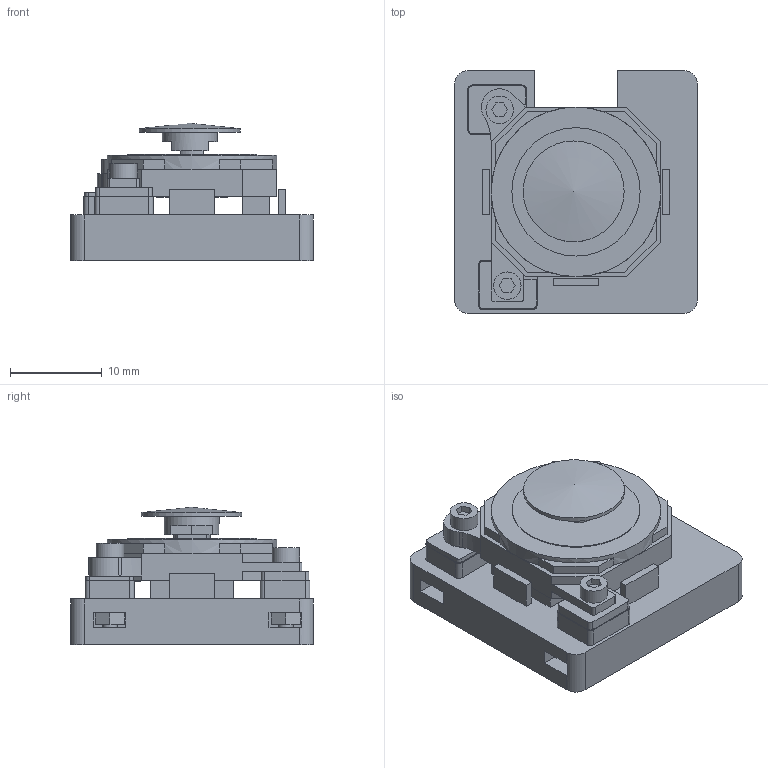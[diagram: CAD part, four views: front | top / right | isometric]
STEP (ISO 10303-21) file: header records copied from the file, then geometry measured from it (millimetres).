
FILE_DESCRIPTION(('Open CASCADE Model'),'2;1');
FILE_NAME('Open CASCADE Shape Model','2026-09-13T21:07:18',('Author'),( 'Open CASCADE'),'Open CASCADE STEP processor 7.9','Open CASCADE 7.9' ,'Unknown');
FILE_SCHEMA(('AUTOMOTIVE_DESIGN { 1 0 10303 214 1 1 1 1 }'));
Length unit declared in the file: millimetre
Products named in the file (9): COM09426_UNVERIFIED_FIT_SAMPLE; PRINT_holder; REFERENCE_community_joystick_NOT_PRINTABLE; PRINT_shim_A_0.5mm; PRINT_shim_B_1.0mm; BUY_M1_6x8_screw_A; BUY_M1_6_nut_A; BUY_M1_6x8_screw_B; BUY_M1_6_nut_B
Assembly tree (8 placements, depth 2):
  COM09426_UNVERIFIED_FIT_SAMPLE
    PRINT_holder
    REFERENCE_community_joystick_NOT_PRINTABLE
    PRINT_shim_A_0.5mm
    PRINT_shim_B_1.0mm
    BUY_M1_6x8_screw_A
    BUY_M1_6_nut_A
    BUY_M1_6x8_screw_B
    BUY_M1_6_nut_B
Bounding box: 26.5 x 26.5 x 15 mm (x, y, z)
Volume: 4317 mm3; surface area: 4284.5 mm2
Topology: 14 solids, 14 shells, 265 faces, 647 edges, 428 vertices
Faces by surface type: plane 211, cylinder 52, bspline 1, cone 1
Full cylindrical faces by diameter (mm): 1.6 x4, 2 x2, 3 x2, 6 x1, 11 x1, 14 x1, 18.5 x1
Entity records: 16682 total; most frequent: CARTESIAN_POINT 3307, DIRECTION 2452, LINE 1606, VECTOR 1606, ORIENTED_EDGE 1292, PCURVE 1292, DEFINITIONAL_REPRESENTATION 1292, EDGE_CURVE 646
